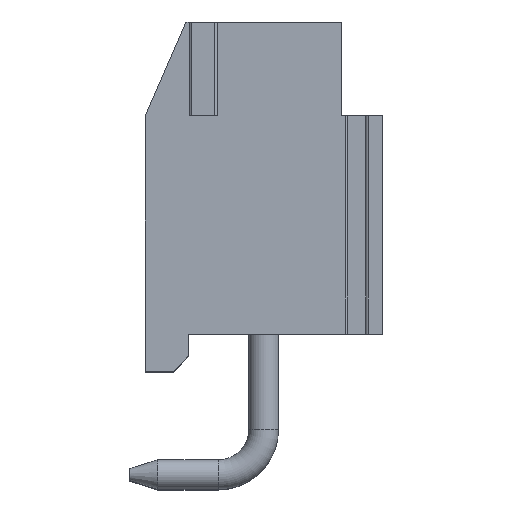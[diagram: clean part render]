
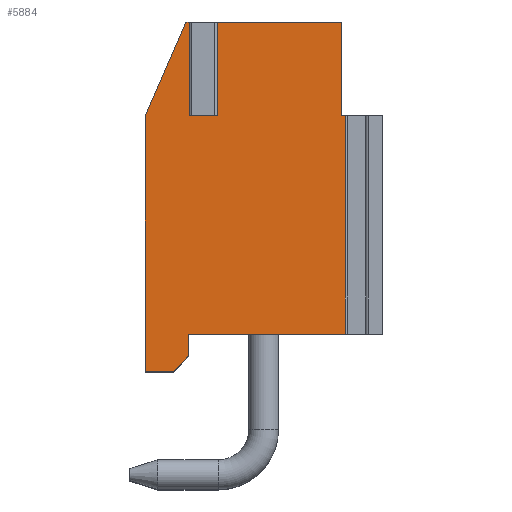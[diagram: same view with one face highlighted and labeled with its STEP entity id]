
A CAD part, top view. The second image highlights one B-rep face of the part: STEP entity #5884.
In plain terms, the highlighted planar face has unit normal (0, 0, 1).
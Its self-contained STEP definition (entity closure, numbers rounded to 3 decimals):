
#233=DIRECTION('',(1.,0.,0.));
#234=VECTOR('',#233,5.012);
#235=CARTESIAN_POINT('',(1.4,1.2,-0.49));
#236=LINE('',#235,#234);
#405=DIRECTION('',(0.,1.,0.));
#406=VECTOR('',#405,7.);
#407=CARTESIAN_POINT('',(6.412,1.2,-0.49));
#408=LINE('',#407,#406);
#409=DIRECTION('',(1.,0.,0.));
#410=VECTOR('',#409,0.5);
#411=CARTESIAN_POINT('',(1.61,8.2,-0.49));
#412=LINE('',#411,#410);
#413=DIRECTION('',(1.,0.,0.));
#414=VECTOR('',#413,4.19);
#415=CARTESIAN_POINT('',(2.11,11.2,-0.49));
#416=LINE('',#415,#414);
#417=DIRECTION('',(1.,0.,0.));
#418=VECTOR('',#417,0.112);
#419=CARTESIAN_POINT('',(6.3,8.2,-0.49));
#420=LINE('',#419,#418);
#421=DIRECTION('',(0.,-1.,0.));
#422=VECTOR('',#421,0.7);
#423=CARTESIAN_POINT('',(1.4,1.2,-0.49));
#424=LINE('',#423,#422);
#425=DIRECTION('',(-0.707,-0.707,0.));
#426=VECTOR('',#425,0.707);
#427=CARTESIAN_POINT('',(1.4,0.5,-0.49));
#428=LINE('',#427,#426);
#429=DIRECTION('',(-1.,0.,0.));
#430=VECTOR('',#429,0.9);
#431=CARTESIAN_POINT('',(0.9,0.,-0.49));
#432=LINE('',#431,#430);
#433=DIRECTION('',(0.,1.,0.));
#434=VECTOR('',#433,8.2);
#435=CARTESIAN_POINT('',(0.,0.,-0.49));
#436=LINE('',#435,#434);
#437=DIRECTION('',(0.398,0.918,0.));
#438=VECTOR('',#437,3.27);
#439=CARTESIAN_POINT('',(0.,8.2,-0.49));
#440=LINE('',#439,#438);
#441=DIRECTION('',(1.,0.,0.));
#442=VECTOR('',#441,0.31);
#443=CARTESIAN_POINT('',(1.3,11.2,-0.49));
#444=LINE('',#443,#442);
#445=DIRECTION('',(0.,1.,0.));
#446=VECTOR('',#445,3.);
#447=CARTESIAN_POINT('',(1.61,8.2,-0.49));
#448=LINE('',#447,#446);
#635=DIRECTION('',(0.,1.,0.));
#636=VECTOR('',#635,3.);
#637=CARTESIAN_POINT('',(6.3,8.2,-0.49));
#638=LINE('',#637,#636);
#660=DIRECTION('',(0.,-1.,0.));
#661=VECTOR('',#660,3.);
#662=CARTESIAN_POINT('',(2.11,11.2,-0.49));
#663=LINE('',#662,#661);
#4544=CARTESIAN_POINT('',(1.4,1.2,-0.49));
#4545=VERTEX_POINT('',#4544);
#4546=CARTESIAN_POINT('',(6.412,1.2,-0.49));
#4547=VERTEX_POINT('',#4546);
#4592=CARTESIAN_POINT('',(6.412,8.2,-0.49));
#4593=VERTEX_POINT('',#4592);
#4594=CARTESIAN_POINT('',(1.61,8.2,-0.49));
#4595=CARTESIAN_POINT('',(1.61,11.2,-0.49));
#4596=VERTEX_POINT('',#4594);
#4597=VERTEX_POINT('',#4595);
#4598=CARTESIAN_POINT('',(2.11,8.2,-0.49));
#4599=VERTEX_POINT('',#4598);
#4600=CARTESIAN_POINT('',(2.11,11.2,-0.49));
#4601=VERTEX_POINT('',#4600);
#4602=CARTESIAN_POINT('',(6.3,11.2,-0.49));
#4603=VERTEX_POINT('',#4602);
#4604=CARTESIAN_POINT('',(6.3,8.2,-0.49));
#4605=VERTEX_POINT('',#4604);
#4606=CARTESIAN_POINT('',(1.4,0.5,-0.49));
#4607=VERTEX_POINT('',#4606);
#4608=CARTESIAN_POINT('',(0.9,0.,-0.49));
#4609=VERTEX_POINT('',#4608);
#4610=CARTESIAN_POINT('',(0.,0.,-0.49));
#4611=VERTEX_POINT('',#4610);
#4612=CARTESIAN_POINT('',(0.,8.2,-0.49));
#4613=VERTEX_POINT('',#4612);
#4614=CARTESIAN_POINT('',(1.3,11.2,-0.49));
#4615=VERTEX_POINT('',#4614);
#5852=CARTESIAN_POINT('',(3.8,5.6,-0.49));
#5853=DIRECTION('',(0.,0.,1.));
#5854=DIRECTION('',(1.,0.,0.));
#5855=AXIS2_PLACEMENT_3D('',#5852,#5853,#5854);
#5856=PLANE('',#5855);
#5858=ORIENTED_EDGE('',*,*,#5857,.F.);
#5860=ORIENTED_EDGE('',*,*,#5859,.T.);
#5862=ORIENTED_EDGE('',*,*,#5861,.F.);
#5864=ORIENTED_EDGE('',*,*,#5863,.T.);
#5866=ORIENTED_EDGE('',*,*,#5865,.F.);
#5867=ORIENTED_EDGE('',*,*,#5832,.T.);
#5868=ORIENTED_EDGE('',*,*,#5846,.F.);
#5869=ORIENTED_EDGE('',*,*,#5621,.F.);
#5871=ORIENTED_EDGE('',*,*,#5870,.T.);
#5873=ORIENTED_EDGE('',*,*,#5872,.T.);
#5875=ORIENTED_EDGE('',*,*,#5874,.T.);
#5877=ORIENTED_EDGE('',*,*,#5876,.T.);
#5879=ORIENTED_EDGE('',*,*,#5878,.T.);
#5881=ORIENTED_EDGE('',*,*,#5880,.T.);
#5882=EDGE_LOOP('',(#5858,#5860,#5862,#5864,#5866,#5867,#5868,#5869,#5871,#5873,
#5875,#5877,#5879,#5881));
#5883=FACE_OUTER_BOUND('',#5882,.F.);
#5884=ADVANCED_FACE('',(#5883),#5856,.T.);
#5621=EDGE_CURVE('',#4545,#4547,#236,.T.);
#5832=EDGE_CURVE('',#4605,#4593,#420,.T.);
#5846=EDGE_CURVE('',#4547,#4593,#408,.T.);
#5857=EDGE_CURVE('',#4596,#4597,#448,.T.);
#5859=EDGE_CURVE('',#4596,#4599,#412,.T.);
#5861=EDGE_CURVE('',#4601,#4599,#663,.T.);
#5863=EDGE_CURVE('',#4601,#4603,#416,.T.);
#5865=EDGE_CURVE('',#4605,#4603,#638,.T.);
#5870=EDGE_CURVE('',#4545,#4607,#424,.T.);
#5872=EDGE_CURVE('',#4607,#4609,#428,.T.);
#5874=EDGE_CURVE('',#4609,#4611,#432,.T.);
#5876=EDGE_CURVE('',#4611,#4613,#436,.T.);
#5878=EDGE_CURVE('',#4613,#4615,#440,.T.);
#5880=EDGE_CURVE('',#4615,#4597,#444,.T.);
